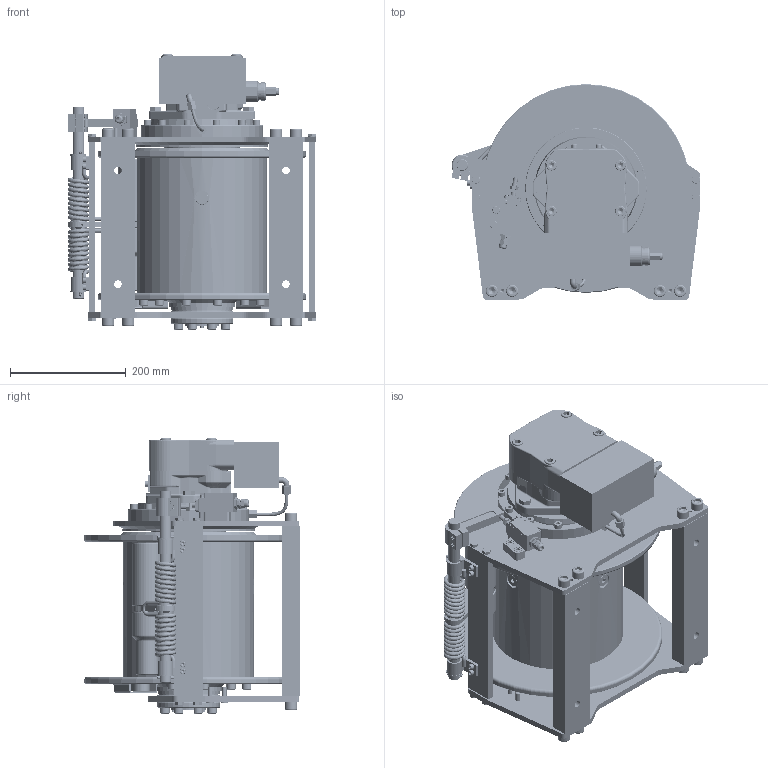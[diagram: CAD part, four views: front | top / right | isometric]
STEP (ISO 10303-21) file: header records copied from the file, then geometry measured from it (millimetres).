
FILE_DESCRIPTION(/* description */ ('CW16R SX LISCIO Ø10 PR.FIN.A10FE45'),/* implementation_level */ '2;1');
FILE_NAME(/* name */ 'C:\Users\s.caputo\Desktop\MI04011-00.stp',/* time_stamp */ '2022-06-27T09:57:52+02:00',/* author */ ('s.caputo'),/* organization */ (''),/* preprocessor_version */ 'ST-DEVELOPER v18.1',/* originating_system */ 'Autodesk Inventor 2021',/* authorisation */ '');
FILE_SCHEMA (('AUTOMOTIVE_DESIGN { 1 0 10303 214 3 1 1 }'));
Products named in the file (1): MI04011
Bounding box: 429.45 x 372 x 475 mm (x, y, z)
Volume: 20721448 mm3; surface area: 2188287.9 mm2
Topology: 196 solids, 199 shells, 3361 faces, 7831 edges, 4988 vertices
Faces by surface type: plane 1666, cylinder 856, cone 406, bspline 213, torus 167, sphere 53
Full cylindrical faces by diameter (mm): 2.459 x12, 3 x12, 3.2 x2, 3.242 x4, 3.5 x8, 4.917 x2, 5 x17, 5.5 x6, 5.74 x1, 6 x18, 6.5 x4, 6.647 x29, 7 x6, 8 x39, 8.376 x8, 8.5 x10, 9 x1, 9.763 x1, 10 x57, 10.5 x20, 11.835 x8, 12 x1, 12.936 x1, 13 x31, 13.763 x1, 14 x20, 14.376 x1, 14.5 x8, 16 x19, 16.5 x1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
Entity records: 122415 total; most frequent: CARTESIAN_POINT 45379, DIRECTION 15636, ORIENTED_EDGE 15325, EDGE_CURVE 7663, AXIS2_PLACEMENT_3D 5871, VERTEX_POINT 4988, EDGE_LOOP 3974, LINE 3894
